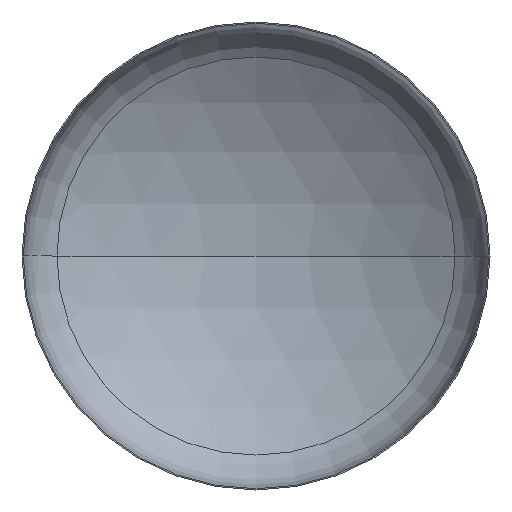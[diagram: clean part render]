
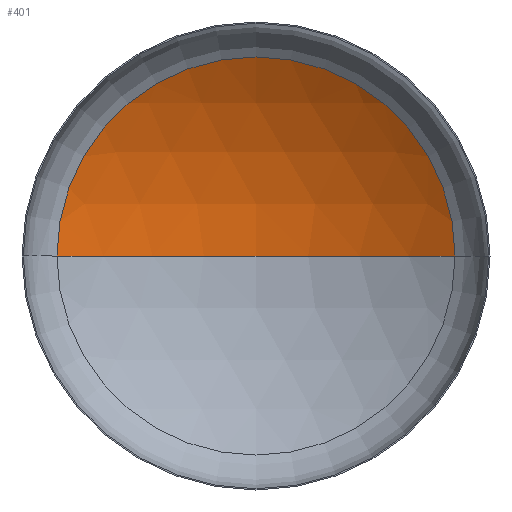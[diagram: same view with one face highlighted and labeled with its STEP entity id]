
A CAD part, front view. The second image highlights one B-rep face of the part: STEP entity #401.
In plain terms, the highlighted spherical face has radius 6400 mm.
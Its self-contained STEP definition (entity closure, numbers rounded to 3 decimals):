
#18 = EDGE_LOOP ( 'NONE', ( #341, #289, #364 ) ) ;
#28 = CARTESIAN_POINT ( 'NONE',  ( 3403.017, 1111.711, 0. ) ) ;
#29 = CARTESIAN_POINT ( 'NONE',  ( 0., 1111.711, 0. ) ) ;
#35 = AXIS2_PLACEMENT_3D ( 'NONE', #93, #95, #62 ) ;
#37 = AXIS2_PLACEMENT_3D ( 'NONE', #209, #118, #116 ) ;
#39 = AXIS2_PLACEMENT_3D ( 'NONE', #29, #73, #76 ) ;
#62 = DIRECTION ( 'NONE',  ( 1., 0., 0. ) ) ;
#73 = DIRECTION ( 'NONE',  ( 0., -1., 0. ) ) ;
#76 = DIRECTION ( 'NONE',  ( 1., 0., 0. ) ) ;
#80 = EDGE_CURVE ( 'NONE', #223, #170, #371, .T. ) ;
#81 = EDGE_CURVE ( 'NONE', #272, #223, #294, .T. ) ;
#83 = EDGE_CURVE ( 'NONE', #272, #170, #145, .T. ) ;
#93 = CARTESIAN_POINT ( 'NONE',  ( 0., -4308.573, 0. ) ) ;
#95 = DIRECTION ( 'NONE',  ( 0., 0., 1. ) ) ;
#113 = DIRECTION ( 'NONE',  ( -1., 0., 0. ) ) ;
#116 = DIRECTION ( 'NONE',  ( -1., 0., 0. ) ) ;
#118 = DIRECTION ( 'NONE',  ( 0., 0., -1. ) ) ;
#142 = CARTESIAN_POINT ( 'NONE',  ( -3403.017, 1111.711, 0. ) ) ;
#145 = CIRCLE ( 'NONE', #35, 6400. ) ;
#170 = VERTEX_POINT ( 'NONE', #142 ) ;
#209 = CARTESIAN_POINT ( 'NONE',  ( 0., -4308.573, 0. ) ) ;
#212 = CARTESIAN_POINT ( 'NONE',  ( 0., 2091.427, 0. ) ) ;
#223 = VERTEX_POINT ( 'NONE', #28 ) ;
#232 = FACE_OUTER_BOUND ( 'NONE', #18, .T. ) ;
#272 = VERTEX_POINT ( 'NONE', #212 ) ;
#289 = ORIENTED_EDGE ( 'NONE', *, *, #81, .T. ) ;
#294 = CIRCLE ( 'NONE', #37, 6400. ) ;
#306 = CARTESIAN_POINT ( 'NONE',  ( 0., -4308.573, 0. ) ) ;
#307 = SPHERICAL_SURFACE ( 'NONE', #340, 6400. ) ;
#312 = DIRECTION ( 'NONE',  ( 0., 0., -1. ) ) ;
#340 = AXIS2_PLACEMENT_3D ( 'NONE', #306, #312, #113 ) ;
#341 = ORIENTED_EDGE ( 'NONE', *, *, #83, .F. ) ;
#364 = ORIENTED_EDGE ( 'NONE', *, *, #80, .T. ) ;
#371 = CIRCLE ( 'NONE', #39, 3403.017 ) ;
#401 = ADVANCED_FACE ( 'NONE', ( #232 ), #307, .F. ) ;
